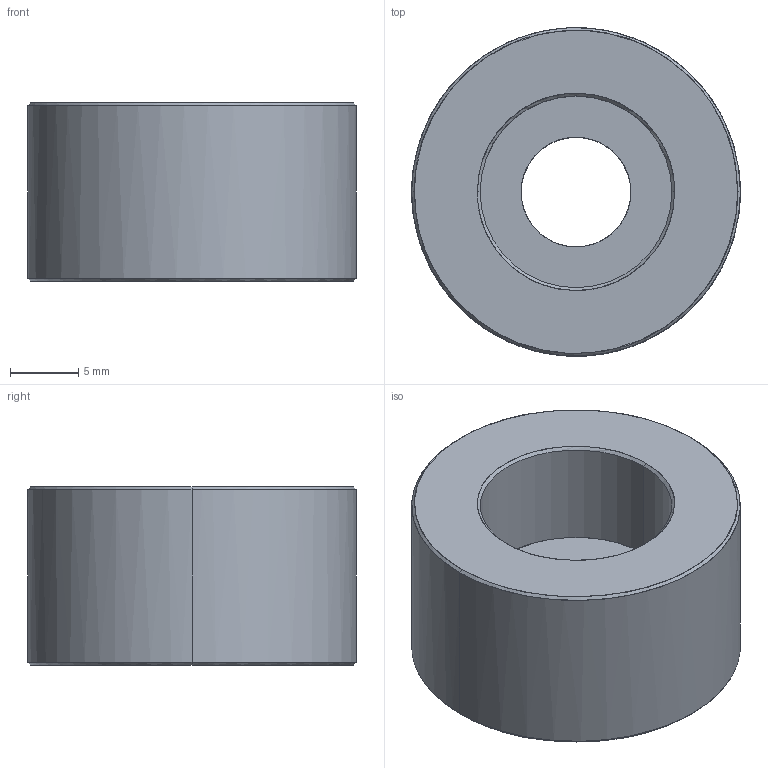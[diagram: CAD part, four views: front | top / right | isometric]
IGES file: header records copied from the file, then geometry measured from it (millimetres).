
Global section: file name: E:\UnigraphicsGraphicData\MISUMI_PRESS-PARTS\IGES\3d_j13_00099_r00.igs; native system: NX V5.0; preprocessor: UGS NX IGES V5.0; author: MISUMI; date: 20110105.161101; units: millimetre
Bounding box: 24 x 23.97 x 13 mm (x, y, z)
Surface area: 2238.7 mm2 (no closed solid volume)
Topology: 0 solids, 0 shells, 17 faces, 104 edges, 104 vertices
Faces by surface type: bspline 17
